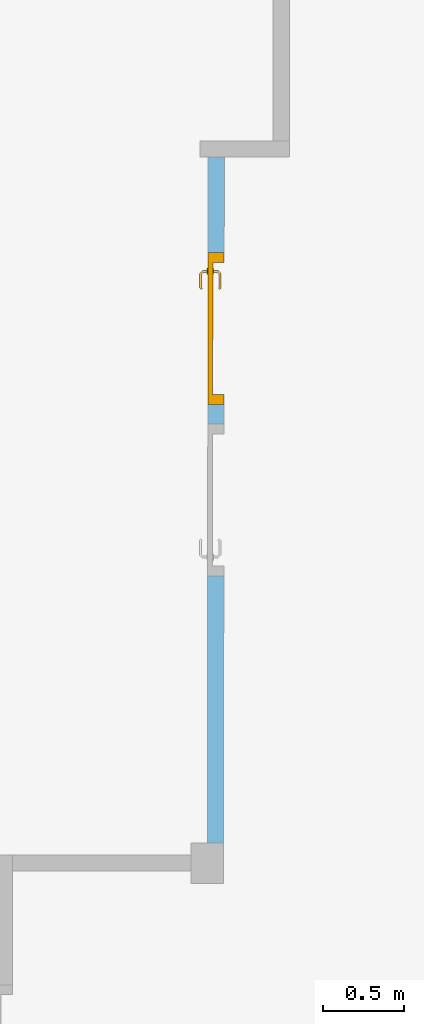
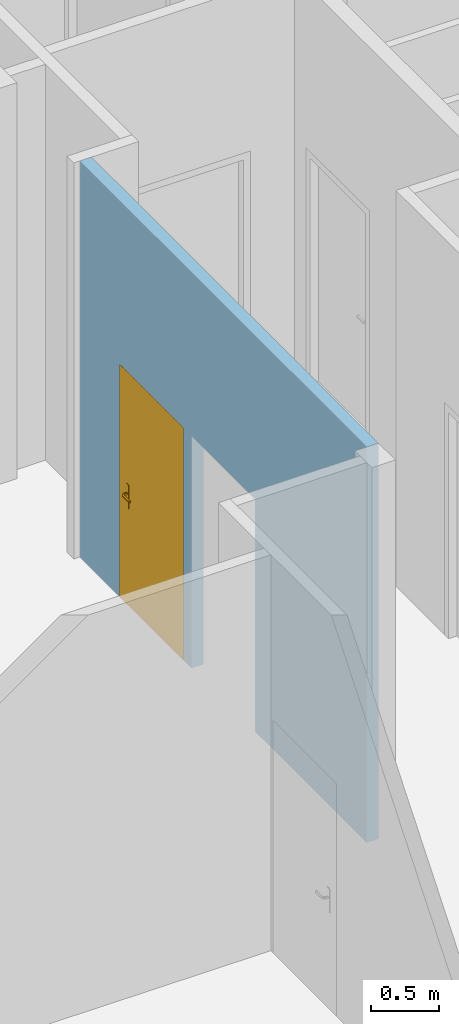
# One storey, part 49 of 101: 1 door, 2 openings, plus 1 element that does not belong to this part.
"""IFC2X3 building model written with IfcOpenShell, lengths in metres."""

from ifc_helpers import new_model, entity, si_unit, converted_unit, derived_unit, direction, frame, frame_2d, origin, place, context, subcontext, project, spatial, rectangle, extrude, faceted_brep, source, transform, mapped, material, material_list, layer, layer_set, layer_usage, type_object, type_shapes, element, fill, save


model = new_model("IFC2X3")

# Units and contexts
model_context = context("Model", 3, precision=1e-05, world=origin(), true_north=direction((6.123233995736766e-17, 1.0)))
body_context = subcontext(model_context, "Body", "Model", "MODEL_VIEW")
ifc_project = project(units=[si_unit("LENGTHUNIT", "METRE"), si_unit("AREAUNIT", "SQUARE_METRE"), converted_unit("PLANEANGLEUNIT", "DEGREE", entity("IfcPlaneAngleMeasure", 0.017453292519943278), si_unit("PLANEANGLEUNIT", "RADIAN"), dimensions=[0, 0, 0, 0, 0, 0, 0]), derived_unit("THERMALTRANSMITTANCEUNIT", [(si_unit("MASSUNIT", "GRAM", prefix="KILO"), 1), (si_unit("THERMODYNAMICTEMPERATUREUNIT", "KELVIN"), -1), (si_unit("TIMEUNIT", "SECOND"), -3)])], contexts=[model_context])

# Site, building, storey
site_placement = place(None, frame((1253.6752467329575, 2072.143113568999, 91.49999999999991), z_axis=(0.0, 0.0, 1.0), x_axis=(0.7237211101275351, 0.6900925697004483, 0.0)))
site = spatial("IfcSite", under=ifc_project, at=site_placement, Name="Surface", CompositionType="ELEMENT")
building_placement = place(site_placement, origin())
building = spatial("IfcBuilding", under=site, at=building_placement, CompositionType="ELEMENT")
storey_placement = place(building_placement, origin())
storey = spatial("IfcBuildingStorey", under=building, at=storey_placement, Name="0- Rdc", CompositionType="ELEMENT", Elevation=-5.764692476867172e-13)

# Wall, openings, door
ifc_material_1 = material(Name="OMD_Béton blanc")
ifc_layer = layer(ifc_material_1, 0.1)
ifc_layer_set = layer_set([ifc_layer], Name="Mur de base:MUR 10")
ifc_layer_usage = layer_usage(ifc_layer_set, "AXIS2", "NEGATIVE", 0.05)
wall_type = type_object("IfcWallType", Name="Mur de base:MUR 10", PredefinedType="STANDARD", material=ifc_layer_set)
wall_placement = place(storey_placement, frame((157.25359361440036, 10.229599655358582, 0.0), z_axis=(0.0, 0.0, 1.0), x_axis=(-0.6909838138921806, -0.7228702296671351, 0.0)))
wall = element("IfcWallStandardCase", 1, at=wall_placement, inside=storey, type_object=wall_type, material=ifc_layer_usage, Name="Mur de base:MUR 10", ObjectType="Mur de base:MUR 10", context=body_context, shape_type="SweptSolid", body=[
    extrude(rectangle(XDim=4.225000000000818, YDim=0.10000000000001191, at=frame_2d((2.112500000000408, -6.293576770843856e-15), x_axis=(-1.0, 0.0))), origin(), (0.0, 0.0, 1.0), 3.5499999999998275),
])
opening_1_placement = place(wall_placement, frame((2.5800000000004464, 0.05000000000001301, 0.0)))
element("IfcOpeningElement", 2, at=opening_1_placement, cuts=wall, Name="OMD_Porte 1V tunnel:80x204:1", ObjectType="Opening", context=body_context, shape_type="SweptSolid", body=[
    extrude(rectangle(XDim=2.0850000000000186, YDim=0.9349999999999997, at=frame_2d((1.0425000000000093, 0.46749999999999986), x_axis=(1.0, 0.0))), frame((0.0, 0.0, 0.0), z_axis=(0.0, -1.0, 0.0), x_axis=(0.0, 0.0, 1.0)), (0.0, 0.0, 1.0), 0.09999999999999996),
])
opening_2_placement = place(wall_placement, frame((1.5237500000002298, 0.05000000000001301, 0.0)))
opening_2 = element("IfcOpeningElement", 3, at=opening_2_placement, cuts=wall, Name="OMD_Porte 1V tunnel:80x204:1", ObjectType="Opening", context=body_context, shape_type="SweptSolid", body=[
    extrude(rectangle(XDim=2.0850000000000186, YDim=0.9349999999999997, at=frame_2d((1.0425000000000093, 0.46749999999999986), x_axis=(1.0, 0.0))), frame((0.0, 0.0, 0.0), z_axis=(0.0, -1.0, 0.0), x_axis=(0.0, 0.0, 1.0)), (0.0, 0.0, 1.0), 0.09999999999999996),
])
ifc_material_2 = material(Name="Porte - Poignée")
ifc_material_3 = material(Name="OMD_Peinture mur")
ifc_material_4 = material(Name="OMD_Bois")
ifc_material_list = material_list([ifc_material_2, ifc_material_3, ifc_material_4])
door_style = type_object("IfcDoorStyle", Name="OMD_Porte 1V tunnel:80x204", ConstructionType="NOTDEFINED", OperationType="NOTDEFINED", ParameterTakesPrecedence=False, Sizeable=False, material=ifc_material_list)
shared_shape = source(origin(), body_context, "Body", "Brep", [
    faceted_brep([(0.21297470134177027, 0.03500000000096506, 1.0077804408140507), (0.20900000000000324, 0.03500000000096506, 1.0069999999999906), (0.208999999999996, 0.03500000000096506, 0.9929999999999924), (0.21297470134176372, 0.03500000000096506, 0.9922195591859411), (0.21702529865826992, 0.03500000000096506, 0.9922195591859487), (0.22100000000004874, 0.03500000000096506, 0.9930000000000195), (0.22100000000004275, 0.03500000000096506, 1.0069999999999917), (0.2170252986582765, 0.03500000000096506, 1.007780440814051), (0.22100000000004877, 0.05748520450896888, 0.9930000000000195), (0.22100000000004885, 0.057485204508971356, 1.0069999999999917), (0.21702529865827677, 0.059131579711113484, 1.007780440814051), (0.23083890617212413, 0.07294518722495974, 1.007780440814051), (0.2291610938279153, 0.07699578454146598, 1.0077804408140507), (0.21297470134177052, 0.060809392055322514, 1.0077804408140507), (0.3206847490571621, 0.0664673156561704, 1.0077804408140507), (0.32354895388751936, 0.06933152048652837, 1.0077804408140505), (0.31588468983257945, 0.07699578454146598, 1.0077804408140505), (0.31420687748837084, 0.07294518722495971, 1.0077804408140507), (0.20900000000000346, 0.06245576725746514, 1.0069999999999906), (0.20900000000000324, 0.06245576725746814, 0.9929999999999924), (0.21297470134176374, 0.06080939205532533, 0.9922195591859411), (0.22916109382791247, 0.07699578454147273, 0.9922195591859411), (0.23083890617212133, 0.07294518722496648, 0.9922195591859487), (0.21702529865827, 0.05913157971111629, 0.9922195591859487), (0.32354895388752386, 0.06933152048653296, 0.9922195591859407), (0.3206847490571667, 0.06646731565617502, 0.9922195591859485), (0.3142068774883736, 0.07294518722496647, 0.9922195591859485), (0.3158846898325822, 0.07699578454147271, 0.9922195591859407), (0.23248528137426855, 0.0689704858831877, 0.9930000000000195), (0.23248528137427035, 0.06897048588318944, 1.0069999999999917), (0.22751471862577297, 0.0809704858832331, 1.0069999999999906), (0.22751471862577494, 0.08097048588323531, 0.9929999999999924), (0.2725228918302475, 0.06897048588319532, 0.9930000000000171), (0.3125605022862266, 0.06897048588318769, 0.9930000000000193), (0.31256050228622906, 0.06897048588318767, 1.0069999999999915), (0.2725228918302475, 0.0689704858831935, 1.0069999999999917), (0.2725228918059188, 0.07512492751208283, 1.0078781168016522), (0.31753106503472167, 0.08097048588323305, 1.0069999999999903), (0.2776005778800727, 0.08097048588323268, 1.0069999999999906), (0.31753106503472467, 0.08097048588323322, 0.9929999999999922), (0.2674452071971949, 0.08097048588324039, 0.9929999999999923), (0.2725228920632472, 0.07512492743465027, 0.9921218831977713), (0.317874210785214, 0.06365677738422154, 0.9930000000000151), (0.32635949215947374, 0.07214205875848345, 0.99299999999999), (0.3263594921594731, 0.07214205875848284, 1.0069999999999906), (0.317874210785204, 0.06365677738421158, 1.0069999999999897)], [[[0, 1, 2, 3, 4, 5, 6, 7]], [[6, 5, 8, 9]], [[9, 10, 7, 6]], [[10, 11, 12, 13, 0, 7]], [[14, 15, 16, 17]], [[13, 18, 1, 0]], [[2, 1, 18, 19]], [[19, 20, 3, 2]], [[20, 21, 22, 23, 4, 3]], [[24, 25, 26, 27]], [[23, 8, 5, 4]], [[9, 8, 28, 29]], [[29, 11, 10, 9]], [[12, 30, 18, 13]], [[19, 18, 30, 31]], [[31, 21, 20, 19]], [[22, 28, 8, 23]], [[29, 28, 32, 33, 34, 35]], [[11, 35, 36]], [[16, 37, 38]], [[30, 12, 38]], [[38, 12, 36]], [[36, 35, 17]], [[17, 16, 36]], [[35, 11, 29]], [[34, 17, 35]], [[11, 36, 12]], [[38, 36, 16]], [[31, 30, 38, 37, 39, 40]], [[40, 41, 21]], [[41, 40, 27]], [[21, 31, 40]], [[39, 27, 40]], [[41, 32, 22]], [[22, 21, 41]], [[26, 32, 41]], [[28, 22, 32]], [[32, 26, 33]], [[26, 41, 27]], [[42, 25, 24, 43, 44, 15, 14, 45]], [[34, 33, 42, 45]], [[45, 14, 17, 34]], [[15, 44, 37, 16]], [[39, 37, 44, 43]], [[43, 24, 27, 39]], [[25, 42, 33, 26]]]),
    faceted_brep([(0.21297470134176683, -0.004999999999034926, 1.0077804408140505), (0.2170252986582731, -0.004999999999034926, 1.007780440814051), (0.2210000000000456, -0.004999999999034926, 1.006999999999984), (0.22100000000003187, -0.004999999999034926, 0.9930000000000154), (0.21702529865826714, -0.004999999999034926, 0.9922195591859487), (0.21297470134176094, -0.004999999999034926, 0.992219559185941), (0.20900000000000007, -0.004999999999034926, 0.992999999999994), (0.20900000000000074, -0.004999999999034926, 1.0069999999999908), (0.20900000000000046, -0.03265095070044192, 1.0069999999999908), (0.21297470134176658, -0.03100457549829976, 1.0077804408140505), (0.22902358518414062, -0.04705345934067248, 1.0077804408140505), (0.2307013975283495, -0.04300286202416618, 1.007780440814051), (0.21702529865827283, -0.02932676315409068, 1.007780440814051), (0.3235218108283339, -0.039389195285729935, 1.0077804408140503), (0.3206576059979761, -0.03652499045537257, 1.0077804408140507), (0.3141797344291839, -0.04300286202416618, 1.0077804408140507), (0.31585754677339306, -0.04705345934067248, 1.0077804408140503), (0.22100000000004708, -0.027680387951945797, 1.0069999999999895), (0.22100000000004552, -0.02768038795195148, 0.9930000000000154), (0.21702529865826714, -0.029326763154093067, 0.9922195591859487), (0.23070139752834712, -0.04300286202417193, 0.9922195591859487), (0.2290235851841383, -0.0470534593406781, 0.992219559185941), (0.21297470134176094, -0.031004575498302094, 0.992219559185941), (0.32065760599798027, -0.036524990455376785, 0.9922195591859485), (0.3235218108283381, -0.03938919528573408, 0.9922195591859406), (0.31585754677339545, -0.047053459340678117, 0.9922195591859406), (0.3141797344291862, -0.04300286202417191, 0.9922195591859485), (0.20899999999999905, -0.032650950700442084, 0.9929999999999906), (0.22737720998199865, -0.051028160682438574, 1.0069999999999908), (0.23234777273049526, -0.03902816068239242, 1.0069999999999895), (0.23234777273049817, -0.03902816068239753, 0.9930000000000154), (0.22737720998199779, -0.051028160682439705, 0.9929999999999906), (0.2673076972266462, -0.05102816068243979, 1.0069999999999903), (0.272440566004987, -0.0451828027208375, 1.0078781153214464), (0.3175039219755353, -0.05102816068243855, 1.0069999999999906), (0.27244056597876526, -0.039028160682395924, 1.0069999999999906), (0.3125333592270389, -0.03902816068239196, 1.0069999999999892), (0.31253335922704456, -0.03902816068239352, 0.9930000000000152), (0.27244056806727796, -0.03902816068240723, 0.9930000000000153), (0.27244056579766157, -0.04518280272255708, 0.9921218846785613), (0.3175039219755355, -0.051028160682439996, 0.9929999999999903), (0.27757344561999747, -0.051028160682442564, 0.9929999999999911), (0.3178470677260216, -0.03371445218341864, 1.0069999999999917), (0.3263323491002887, -0.04219973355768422, 1.0069999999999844), (0.3263323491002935, -0.04219973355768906, 0.9929999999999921), (0.31784706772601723, -0.033714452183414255, 0.9930000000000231)], [[[0, 1, 2, 3, 4, 5, 6, 7]], [[8, 9, 0, 7]], [[9, 10, 11, 12, 1, 0]], [[13, 14, 15, 16]], [[12, 17, 2, 1]], [[3, 2, 17, 18]], [[18, 19, 4, 3]], [[19, 20, 21, 22, 5, 4]], [[23, 24, 25, 26]], [[22, 27, 6, 5]], [[7, 6, 27, 8]], [[28, 10, 9, 8]], [[11, 29, 17, 12]], [[18, 17, 29, 30]], [[30, 20, 19, 18]], [[21, 31, 27, 22]], [[8, 27, 31, 28]], [[32, 33, 10]], [[33, 32, 16]], [[10, 28, 32]], [[34, 16, 32]], [[33, 35, 11]], [[11, 10, 33]], [[15, 35, 33]], [[29, 11, 35]], [[35, 15, 36]], [[15, 33, 16]], [[30, 29, 35, 36, 37, 38]], [[20, 38, 39]], [[25, 40, 41]], [[31, 21, 41]], [[41, 21, 39]], [[39, 38, 26]], [[26, 25, 39]], [[38, 20, 30]], [[37, 26, 38]], [[20, 39, 21]], [[41, 39, 25]], [[28, 31, 41, 40, 34, 32]], [[42, 14, 13, 43, 44, 24, 23, 45]], [[43, 13, 16, 34]], [[14, 42, 36, 15]], [[37, 36, 42, 45]], [[45, 23, 26, 37]], [[24, 44, 40, 25]], [[34, 40, 44, 43]]]),
    faceted_brep([(0.22535276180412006, 0.030000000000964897, 0.8660039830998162), (0.2350000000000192, 0.030000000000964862, 0.8700000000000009), (0.2350000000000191, 0.030000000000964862, 1.0800000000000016), (0.2253527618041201, 0.030000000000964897, 1.0839960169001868), (0.21500000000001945, 0.030000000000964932, 1.0853589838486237), (0.20464723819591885, 0.03000000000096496, 1.0839960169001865), (0.19500000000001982, 0.030000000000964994, 1.0800000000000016), (0.19500000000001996, 0.030000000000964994, 0.8700000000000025), (0.20464723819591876, 0.03000000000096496, 0.866003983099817), (0.21500000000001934, 0.030000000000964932, 0.8646410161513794), (0.22535276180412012, 0.0350000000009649, 1.0839960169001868), (0.2350000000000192, 0.03500000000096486, 1.0800000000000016), (0.23500000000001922, 0.03500000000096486, 0.8700000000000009), (0.22535276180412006, 0.0350000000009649, 0.8660039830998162), (0.21500000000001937, 0.03500000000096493, 0.8646410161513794), (0.20464723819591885, 0.03500000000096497, 0.866003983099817), (0.19500000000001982, 0.035000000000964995, 0.8700000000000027), (0.19500000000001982, 0.035000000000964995, 1.0800000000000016), (0.20464723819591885, 0.03500000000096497, 1.0839960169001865), (0.21500000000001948, 0.03500000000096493, 1.0853589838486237)], [[[0, 1, 2, 3, 4, 5, 6, 7, 8, 9]], [[10, 11, 12, 13, 14, 15, 16, 17, 18, 19]], [[11, 10, 3, 2]], [[3, 10, 19, 4]], [[19, 18, 5, 4]], [[18, 17, 6, 5]], [[7, 6, 17, 16]], [[16, 15, 8, 7]], [[8, 15, 14, 9]], [[14, 13, 0, 9]], [[13, 12, 1, 0]], [[2, 1, 12, 11]]]),
    faceted_brep([(0.22535276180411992, -0.004999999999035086, 0.8660039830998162), (0.2350000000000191, -0.004999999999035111, 0.8700000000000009), (0.23500000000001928, -0.004999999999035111, 1.0800000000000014), (0.22535276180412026, -0.004999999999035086, 1.0839960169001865), (0.2150000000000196, -0.004999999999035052, 1.0853589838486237), (0.20464723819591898, -0.0049999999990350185, 1.0839960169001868), (0.19500000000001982, -0.004999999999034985, 1.0800000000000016), (0.19500000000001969, -0.004999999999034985, 0.8700000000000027), (0.20464723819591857, -0.0049999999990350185, 0.8660039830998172), (0.21500000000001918, -0.004999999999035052, 0.8646410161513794), (0.22535276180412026, 0.0, 1.0839960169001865), (0.2350000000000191, 0.0, 1.0800000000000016), (0.2350000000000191, 0.0, 0.8700000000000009), (0.22535276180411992, 0.0, 0.8660039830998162), (0.21500000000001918, 0.0, 0.8646410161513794), (0.20464723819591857, 0.0, 0.8660039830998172), (0.19500000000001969, 0.0, 0.8700000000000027), (0.19500000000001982, 0.0, 1.0800000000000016), (0.20464723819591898, 0.0, 1.0839960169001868), (0.2150000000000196, 0.0, 1.0853589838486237)], [[[0, 1, 2, 3, 4, 5, 6, 7, 8, 9]], [[10, 11, 12, 13, 14, 15, 16, 17, 18, 19]], [[16, 15, 8, 7]], [[8, 15, 14, 9]], [[14, 13, 0, 9]], [[13, 12, 1, 0]], [[2, 1, 12, 11]], [[11, 10, 3, 2]], [[3, 10, 19, 4]], [[19, 18, 5, 4]], [[18, 17, 6, 5]], [[7, 6, 17, 16]]]),
    faceted_brep([(0.14500000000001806, 0.030000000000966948, 0.0), (0.9900000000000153, 0.030000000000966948, 0.0), (0.9900000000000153, 0.0, 0.0), (0.14500000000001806, 0.0, 0.0), (0.14500000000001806, 0.030000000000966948, 2.04), (0.14500000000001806, 0.0, 2.04), (0.9900000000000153, 0.0, 2.04), (0.9900000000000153, 0.030000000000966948, 2.04)], [[[0, 1, 2, 3]], [[4, 0, 3, 5]], [[5, 3, 2, 6]], [[6, 2, 1, 7]], [[7, 1, 0, 4]], [[4, 5, 6, 7]]]),
    faceted_brep([(0.10000000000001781, 0.0, 0.0), (0.10000000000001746, 0.10000000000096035, 0.0), (0.16000000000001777, 0.10000000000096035, 0.0), (0.16000000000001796, 0.03000000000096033, 0.0), (0.145000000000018, 0.03000000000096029, 0.0), (0.14500000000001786, 0.0, 0.0), (0.145000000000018, 0.0, 2.04), (0.9900000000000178, 0.0, 2.0400000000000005), (0.9900000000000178, 0.0, 0.0), (1.0350000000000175, 0.0, 0.0), (1.0350000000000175, 0.0, 2.085), (0.10000000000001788, 0.0, 2.085), (0.14500000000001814, 0.030000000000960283, 2.04), (0.16000000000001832, 0.03000000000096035, 2.0249999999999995), (0.9750000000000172, 0.03000000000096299, 2.0249999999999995), (0.9750000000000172, 0.03000000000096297, 0.0), (0.9900000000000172, 0.03000000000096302, 0.0), (0.9900000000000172, 0.03000000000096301, 2.0399999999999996), (0.16000000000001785, 0.10000000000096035, 2.0249999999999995), (0.1000000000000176, 0.10000000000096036, 2.085), (1.0350000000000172, 0.10000000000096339, 2.085), (1.0350000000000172, 0.10000000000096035, 0.0), (0.9750000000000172, 0.10000000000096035, 0.0), (0.9750000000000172, 0.10000000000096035, 2.025)], [[[0, 1, 2, 3, 4, 5]], [[5, 6, 7, 8, 9, 10, 11, 0]], [[4, 12, 6, 5]], [[3, 13, 14, 15, 16, 17, 12, 4]], [[2, 18, 13, 3]], [[1, 19, 20, 21, 22, 23, 18, 2]], [[0, 11, 19, 1]], [[10, 9, 21, 20]], [[9, 8, 16, 15, 22, 21]], [[17, 16, 8, 7]], [[23, 22, 15, 14]], [[12, 17, 7, 6]], [[18, 23, 14, 13]], [[11, 10, 20, 19]]]),
])
type_shapes(door_style, [shared_shape])
door_placement = place(opening_2_placement, frame((-1.0350000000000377, -0.1000000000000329, 0.0)))
door = element("IfcDoor", 4, at=door_placement, inside=storey, type_object=door_style, material=ifc_material_list, Name="OMD_Porte 1V tunnel:80x204", ObjectType="OMD_Porte 1V tunnel:80x204", OverallHeight=2.0850000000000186, OverallWidth=0.9350000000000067, context=body_context, shape_type="MappedRepresentation", body=[
    mapped(shared_shape, transform((0.0, 0.0, 0.0), scale=1.0)),
])
fill(opening_2, door)

save(model, "model.ifc")
